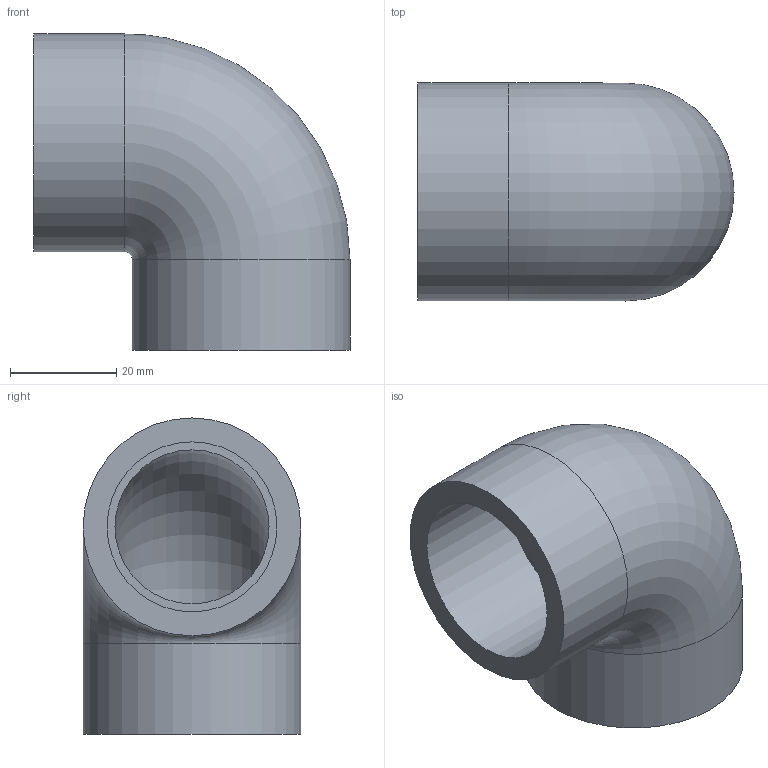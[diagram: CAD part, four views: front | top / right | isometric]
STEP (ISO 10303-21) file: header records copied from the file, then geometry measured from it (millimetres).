
FILE_DESCRIPTION(/* description */ ('PVC Elbow 90° solvent cement metric'),/* implementation_level */ '2;1');
FILE_NAME(/* name */ 'C:\Users\POLYPIPE\Desktop\DATASET INVENTOR\LIBRERIA EFFAST\RACCORDI 3DxWEB\RDR\3D_RDRGOD\3D_RDRGOD0320.stp',/* time_stamp */ '2018-01-19T14:27:19+01:00',/* author */ ('POLYPIPE'),/* organization */ ('Polypipe Italia s.r.l.'),/* preprocessor_version */ 'ST-DEVELOPER v16.1',/* originating_system */ 'Autodesk Inventor 2016',/* authorisation */ '');
FILE_SCHEMA (('CONFIG_CONTROL_DESIGN'));
Length unit declared in the file: millimetre
Products named in the file (1): 3D_RDRGOD
Bounding box: 59.5 x 41 x 59.5 mm (x, y, z)
Volume: 37488.2 mm3; surface area: 17006.3 mm2
Topology: 1 solids, 1 shells, 10 faces, 16 edges, 10 vertices
Faces by surface type: cylinder 4, plane 4, torus 2
Full cylindrical faces by diameter (mm): 32 x2, 41 x2
Entity records: 232 total; most frequent: DIRECTION 42, CARTESIAN_POINT 31, AXIS2_PLACEMENT_3D 21, EDGE_LOOP 20, ORIENTED_EDGE 20, FACE_BOUND 10, FACE_OUTER_BOUND 10, CIRCLE 10
